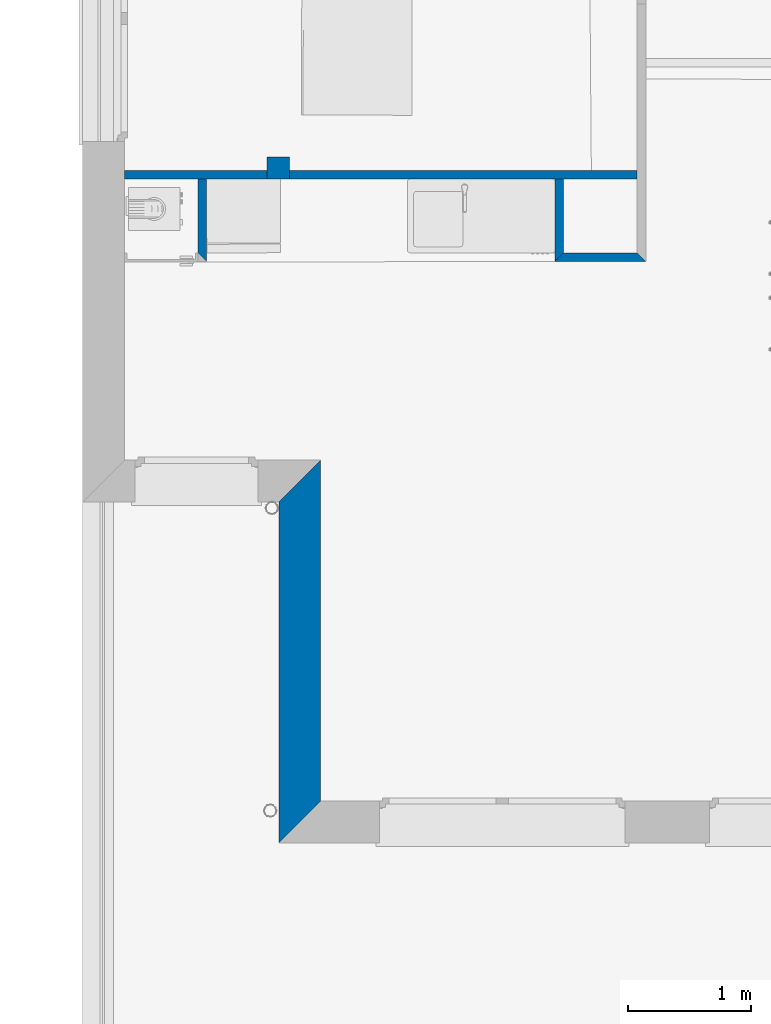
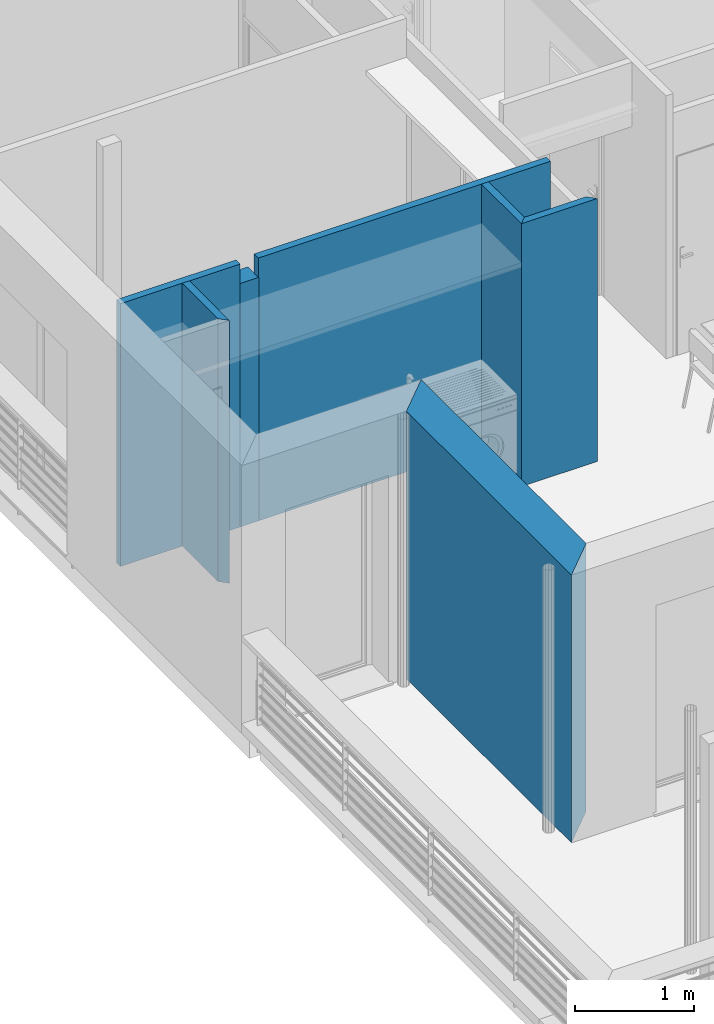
# One storey, part 21 of 171: 7 walls.
"""IFC2X3 building model written with IfcOpenShell, lengths in millimetres."""

from ifc_helpers import new_model, entity, si_unit, converted_unit, derived_unit, money_unit, direction, frame, origin_with_axes, place, context, subcontext, project, spatial, polyline, outline, extrude, material, layer, layer_set, layer_usage, type_object, element, save


model = new_model("IFC2X3")

# Units and contexts
model_context = context("Model", 3, precision=0.01, world=origin_with_axes(), true_north=direction((0.0, 1.0)))
body_context = subcontext(model_context, "Body", "Model", "MODEL_VIEW")
ifc_project = project(units=[si_unit("LENGTHUNIT", "METRE", prefix="MILLI"), si_unit("AREAUNIT", "SQUARE_METRE"), si_unit("VOLUMEUNIT", "CUBIC_METRE"), converted_unit("PLANEANGLEUNIT", "DEGREE", entity("IfcPlaneAngleMeasure", 0.0174532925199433), si_unit("PLANEANGLEUNIT", "RADIAN"), dimensions=[0, 0, 0, 0, 0, 0, 0]), money_unit("USD"), converted_unit("TIMEUNIT", "Year", entity("IfcTimeMeasure", 31557600.0), si_unit("TIMEUNIT", "SECOND"), dimensions=[0, 0, 1, 0, 0, 0, 0]), si_unit("MASSUNIT", "GRAM", prefix="KILO"), si_unit("THERMODYNAMICTEMPERATUREUNIT", "DEGREE_CELSIUS"), si_unit("LUMINOUSINTENSITYUNIT", "LUMEN"), si_unit("ENERGYUNIT", "JOULE", prefix="MEGA"), derived_unit("THERMALCONDUCTANCEUNIT", [(si_unit("POWERUNIT", "WATT"), 1), (si_unit("LENGTHUNIT", "METRE"), -1), (si_unit("THERMODYNAMICTEMPERATUREUNIT", "KELVIN"), -1)]), derived_unit("SPECIFICHEATCAPACITYUNIT", [(si_unit("ENERGYUNIT", "JOULE"), 1), (si_unit("MASSUNIT", "GRAM", prefix="KILO"), -1), (si_unit("THERMODYNAMICTEMPERATUREUNIT", "KELVIN"), -1)]), derived_unit("MASSDENSITYUNIT", [(si_unit("MASSUNIT", "GRAM", prefix="KILO"), 1), (si_unit("VOLUMEUNIT", "CUBIC_METRE"), -1)])], contexts=[model_context])

# Site, building, storey
site_placement = place(None, origin_with_axes())
site = spatial("IfcSite", under=ifc_project, at=site_placement, Name="Site", CompositionType="ELEMENT")
building_placement = place(site_placement, origin_with_axes())
building = spatial("IfcBuilding", under=site, at=building_placement, Name="Bâtiment", CompositionType="ELEMENT")
storey_placement = place(building_placement, frame((0.0, 0.0, 3000.0), z_axis=(0.0, 0.0, 1.0), x_axis=(1.0, 0.0, 0.0)))
storey = spatial("IfcBuildingStorey", under=building, at=storey_placement, Name="rdc", CompositionType="ELEMENT", Elevation=3000.0)

# Walls
ifc_material_1 = material(Name="Hachure solide 268963992")
ifc_layer_1 = layer(ifc_material_1, 70.0, ventilated="UNKNOWN")
ifc_layer_set_1 = layer_set([ifc_layer_1], Name="Cloison 70 0826278243")
ifc_layer_usage_1 = layer_usage(ifc_layer_set_1, "AXIS2", "POSITIVE", -70.0)
wall_type_1 = type_object("IfcWallType", Name="Cloison 70 0826278243 70", PredefinedType="NOTDEFINED")
wall_1_placement = place(storey_placement, frame((2220481.941059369, -653082.9598860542, 0.0), z_axis=(0.0, 0.0, 1.0), x_axis=(-0.0005803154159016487, 0.9999998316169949, 0.0)))
element("IfcWallStandardCase", 1, at=wall_1_placement, inside=storey, type_object=wall_type_1, material=ifc_layer_usage_1, Name="Mur-149", context=body_context, shape_type="SweptSolid", body=[
    extrude(outline(polyline([(69.95938970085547, -70.00000000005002), (670.2373147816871, -70.00000000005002), (670.2779368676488, 0.0), (0.0, 0.0), (69.95938970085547, -70.00000000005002)])), origin_with_axes(), (0.0, 0.0, 1.0), 2700.0),
])
ifc_layer_usage_2 = layer_usage(ifc_layer_set_1, "AXIS2", "NEGATIVE", 70.0)
wall_2_placement = place(storey_placement, frame((2217644.64344762, -653082.9598860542, 0.0), z_axis=(0.0, 0.0, 1.0), x_axis=(0.0, 1.0, 0.0)))
element("IfcWallStandardCase", 2, at=wall_2_placement, inside=storey, type_object=wall_type_1, material=ifc_layer_usage_2, Name="Mur-149", context=body_context, shape_type="SweptSolid", body=[
    extrude(outline(polyline([(0.0, 0.0), (670.2778240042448, 0.0), (670.2778240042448, 70.00000000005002), (69.99999999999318, 70.00000000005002), (0.0, 0.0)])), origin_with_axes(), (0.0, 0.0, 1.0), 2700.0),
])
ifc_layer_usage_3 = layer_usage(ifc_layer_set_1, "AXIS2", "POSITIVE", -70.0)
wall_3_placement = place(storey_placement, frame((2221152.351167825, -652412.6820620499, 0.0), z_axis=(0.0, 0.0, 1.0), x_axis=(-1.0, 0.0, 0.0)))
element("IfcWallStandardCase", 3, at=wall_3_placement, inside=storey, type_object=wall_type_1, material=ifc_layer_usage_3, Name="Mur-149", context=body_context, shape_type="SweptSolid", body=[
    extrude(outline(polyline([(0.0, -69.99999999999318), (2838.117831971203, -69.99999999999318), (2838.117831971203, 0.0), (0.0, 0.0), (0.0, -69.99999999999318)])), origin_with_axes(), (0.0, 0.0, 1.0), 2700.0),
])
ifc_layer_usage_4 = layer_usage(ifc_layer_set_1, "AXIS2", "POSITIVE", -70.0)
wall_4_placement = place(storey_placement, frame((2221152.351167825, -653082.9598860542, 0.0), z_axis=(0.0, 0.0, 1.0), x_axis=(-1.0, 0.0, 0.0)))
element("IfcWallStandardCase", 4, at=wall_4_placement, inside=storey, type_object=wall_type_1, material=ifc_layer_usage_4, Name="Mur-149", context=body_context, shape_type="SweptSolid", body=[
    extrude(outline(polyline([(0.0, -69.99999999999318), (600.4507187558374, -69.99999999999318), (670.4101084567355, 0.0), (-70.00000000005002, 0.0), (0.0, -69.99999999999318)])), origin_with_axes(), (0.0, 0.0, 1.0), 2700.0),
])
ifc_layer_usage_5 = layer_usage(ifc_layer_set_1, "AXIS2", "POSITIVE", -70.0)
wall_5_placement = place(storey_placement, frame((2218138.165121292, -652412.6820620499, 0.0), z_axis=(0.0, 0.0, 1.0), x_axis=(-1.0, 0.0, 0.0)))
element("IfcWallStandardCase", 5, at=wall_5_placement, inside=storey, type_object=wall_type_1, material=ifc_layer_usage_5, Name="Mur-149", context=body_context, shape_type="SweptSolid", body=[
    extrude(outline(polyline([(0.0, -69.99999999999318), (1163.93178087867, -69.99999999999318), (1163.931780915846, 0.0), (0.0, 0.0), (0.0, -69.99999999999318)])), origin_with_axes(), (0.0, 0.0, 1.0), 2700.0),
])
ifc_material_2 = material(Name="Parpaing 312445824")
ifc_layer_2 = layer(ifc_material_2, 180.0, ventilated="UNKNOWN")
ifc_material_3 = material(Name="Isolant styromousse 301821074")
ifc_layer_3 = layer(ifc_material_3, 160.0, ventilated="UNKNOWN")
ifc_layer_set_2 = layer_set([ifc_layer_2, ifc_layer_3], Name="isol int 18+16 0018356637")
ifc_layer_usage_6 = layer_usage(ifc_layer_set_2, "AXIS2", "POSITIVE", 0.0)
wall_type_2 = type_object("IfcWallType", Name="isol int 18+16 0018356637 340", PredefinedType="NOTDEFINED")
wall_6_placement = place(storey_placement, frame((2218234.233338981, -655041.4677782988, 0.0), z_axis=(0.0, 0.0, 1.0), x_axis=(0.0, -1.0, 0.0)))
element("IfcWallStandardCase", 6, at=wall_6_placement, inside=storey, type_object=wall_type_2, material=ifc_layer_usage_6, Name="Mur-143", context=body_context, shape_type="SweptSolid", body=[
    extrude(outline(polyline([(0.0, 0.0), (2776.855298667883, 0.0), (2436.855298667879, 340.0000000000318), (-340.0000000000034, 340.0000000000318), (0.0, 0.0)])), origin_with_axes(), (0.0, 0.0, 1.0), 2750.0),
])
ifc_layer_4 = layer(ifc_material_2, 180.0, ventilated="UNKNOWN")
ifc_layer_set_3 = layer_set([ifc_layer_4], Name="Beton  18 0836643197")
ifc_layer_usage_7 = layer_usage(ifc_layer_set_3, "AXIS2", "NEGATIVE", 0.0)
wall_type_3 = type_object("IfcWallType", Name="Beton  18 0836643197 180", PredefinedType="NOTDEFINED")
wall_7_placement = place(storey_placement, frame((2218317.969447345, -652412.6820620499, 0.0), z_axis=(0.0, 0.0, 1.0), x_axis=(-1.0, 0.0, 0.0)))
element("IfcWallStandardCase", 7, at=wall_7_placement, inside=storey, type_object=wall_type_3, material=ifc_layer_usage_7, Name="Mur-143", context=body_context, shape_type="SweptSolid", body=[
    extrude(outline(polyline([(0.0, -180.0000000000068), (179.8043260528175, -180.0000000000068), (179.8043260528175, 0.0), (0.0, 0.0), (0.0, -180.0000000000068)])), origin_with_axes(), (0.0, 0.0, 1.0), 2500.0),
])

save(model, "model.ifc")
